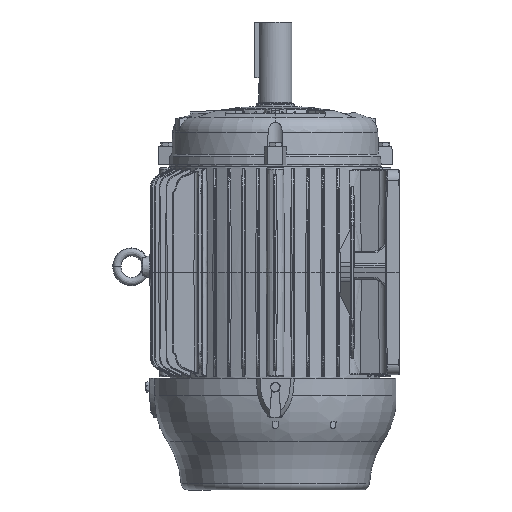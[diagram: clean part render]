
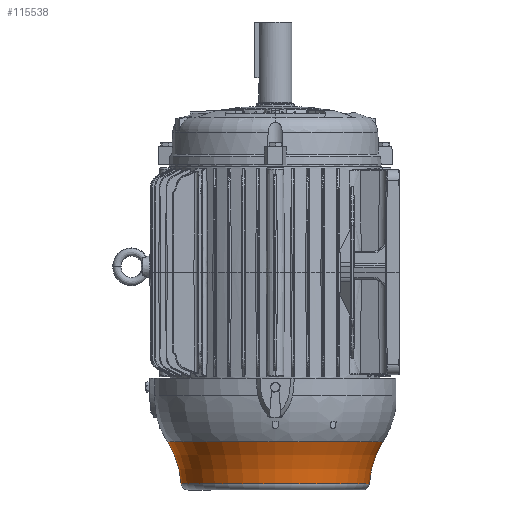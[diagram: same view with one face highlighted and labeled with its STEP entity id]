
A CAD part, left-side view. The second image highlights one B-rep face of the part: STEP entity #115538.
In plain terms, the highlighted toroidal (fillet/blend) face has major radius 264.661 mm and minor radius 130 mm.
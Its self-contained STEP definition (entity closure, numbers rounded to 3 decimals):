
#3666 = DIRECTION ( 'NONE',  ( 0., 1., 0. ) ) ;
#5808 = DIRECTION ( 'NONE',  ( 0., 1., 0. ) ) ;
#10925 = CARTESIAN_POINT ( 'NONE',  ( 0., -264.661, -311.831 ) ) ;
#15933 = CARTESIAN_POINT ( 'NONE',  ( 0., -154.526, -242.764 ) ) ;
#20147 = DIRECTION ( 'NONE',  ( 0., -1., 0. ) ) ;
#23297 = VERTEX_POINT ( 'NONE', #15933 ) ;
#24899 = ORIENTED_EDGE ( 'NONE', *, *, #89929, .F. ) ;
#26509 = ORIENTED_EDGE ( 'NONE', *, *, #118797, .F. ) ;
#35439 = EDGE_CURVE ( 'NONE', #87623, #53466, #52381, .T. ) ;
#44776 = CARTESIAN_POINT ( 'NONE',  ( 0., -134.976, -302.795 ) ) ;
#46476 = AXIS2_PLACEMENT_3D ( 'NONE', #10925, #75188, #20147 ) ;
#46725 = AXIS2_PLACEMENT_3D ( 'NONE', #104550, #49558, #113767 ) ;
#48404 = AXIS2_PLACEMENT_3D ( 'NONE', #115796, #60805, #5808 ) ;
#48667 = CIRCLE ( 'NONE', #46476, 130. ) ;
#49558 = DIRECTION ( 'NONE',  ( 0., 0., 1. ) ) ;
#51501 = DIRECTION ( 'NONE',  ( 0., 0., 1. ) ) ;
#52381 = CIRCLE ( 'NONE', #48404, 130. ) ;
#53466 = VERTEX_POINT ( 'NONE', #103047 ) ;
#58648 = DIRECTION ( 'NONE',  ( 0., 0., 1. ) ) ;
#60805 = DIRECTION ( 'NONE',  ( 1., 0., 0. ) ) ;
#61062 = ORIENTED_EDGE ( 'NONE', *, *, #115242, .T. ) ;
#61491 = EDGE_LOOP ( 'NONE', ( #24899, #26509, #63759, #61062 ) ) ;
#63759 = ORIENTED_EDGE ( 'NONE', *, *, #35439, .T. ) ;
#72352 = AXIS2_PLACEMENT_3D ( 'NONE', #106507, #51501, #115737 ) ;
#75126 = CIRCLE ( 'NONE', #72352, 154.526 ) ;
#75188 = DIRECTION ( 'NONE',  ( -1., 0., 0. ) ) ;
#75562 = FACE_OUTER_BOUND ( 'NONE', #61491, .T. ) ;
#78410 = TOROIDAL_SURFACE ( 'NONE', #99767, 264.661, 130. ) ;
#83251 = VERTEX_POINT ( 'NONE', #44776 ) ;
#87623 = VERTEX_POINT ( 'NONE', #88729 ) ;
#88729 = CARTESIAN_POINT ( 'NONE',  ( 0., 154.526, -242.764 ) ) ;
#89929 = EDGE_CURVE ( 'NONE', #23297, #83251, #48667, .T. ) ;
#99767 = AXIS2_PLACEMENT_3D ( 'NONE', #104415, #58648, #3666 ) ;
#103047 = CARTESIAN_POINT ( 'NONE',  ( 0., 134.976, -302.795 ) ) ;
#104415 = CARTESIAN_POINT ( 'NONE',  ( 0., 0., -311.831 ) ) ;
#104550 = CARTESIAN_POINT ( 'NONE',  ( 0., 0., -302.795 ) ) ;
#106507 = CARTESIAN_POINT ( 'NONE',  ( 0., 0., -242.764 ) ) ;
#113767 = DIRECTION ( 'NONE',  ( 0., 1., 0. ) ) ;
#114349 = CIRCLE ( 'NONE', #46725, 134.976 ) ;
#115242 = EDGE_CURVE ( 'NONE', #53466, #83251, #114349, .T. ) ;
#115538 = ADVANCED_FACE ( 'NONE', ( #75562 ), #78410, .F. ) ;
#115737 = DIRECTION ( 'NONE',  ( 0., 1., 0. ) ) ;
#115796 = CARTESIAN_POINT ( 'NONE',  ( 0., 264.661, -311.831 ) ) ;
#118797 = EDGE_CURVE ( 'NONE', #87623, #23297, #75126, .T. ) ;
